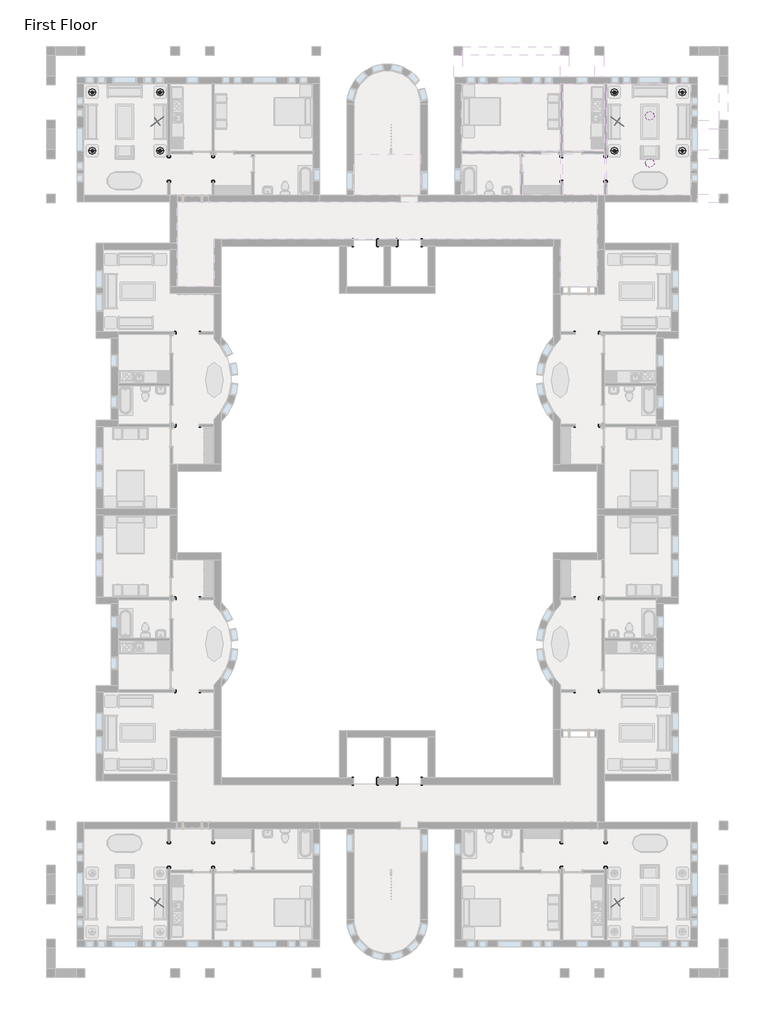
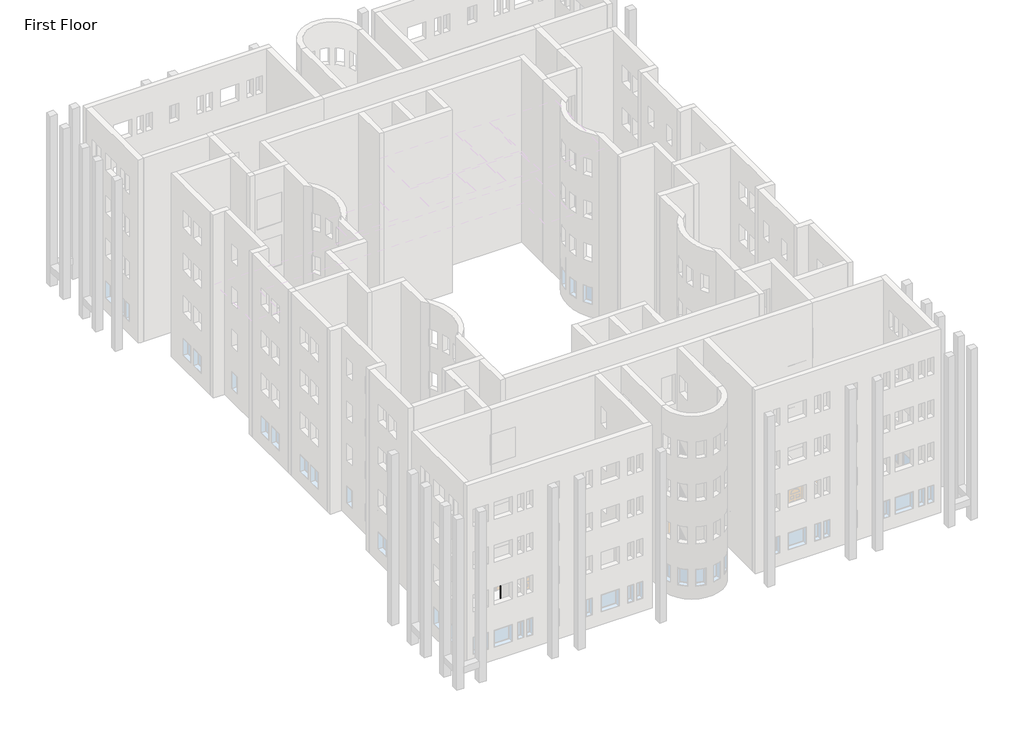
# One storey, part 21 of 21: 24 proxies, 10 light fixtures.
"""IFC4 building model written with IfcOpenShell, lengths in millimetres."""

from ifc_helpers import new_model, si_unit, origin, place, context, project, spatial, transform, mapped, element, save
from components import proxy_f44482cc, proxy_c3589814, proxy_d58c73d0, proxy_1659ed5c, rpc_female_69e001fa, rpc_female_db180e41, pendant_light_disk_100w_120v_c68bffb6, table_lamp_standard_60w_120v_6e8cd8b1, table_lamp_standard_60w_120v_b33ea945

model = new_model("IFC4")

# Units and contexts
model_context = context("Model", 3, world=origin())
ifc_project = project(units=[si_unit("LENGTHUNIT", "METRE", prefix="MILLI")], contexts=[model_context])

# Site, building, storey
site = spatial("IfcSite", under=ifc_project)
building = spatial("IfcBuilding", under=site)
storey = spatial("IfcBuildingStorey", under=building, Name="First Floor", Elevation=0.0)

# Proxies
placement = place(None, origin())
proxy_shape = proxy_f44482cc(model_context)
element("IfcBuildingElementProxy", 1, Name="Opening-Cased : 48\" x 84\"", ObjectType="Opening-Cased : 48\" x 84\"", at=placement, inside=storey, context=model_context, shape_type="MappedRepresentation", body=[
    mapped(proxy_shape, transform((-3773.4589563, 5882.4203434, 0.0), x_axis=(0.0, 1.0, 0.0), y_axis=(-1.0, 0.0, 0.0), z_axis=(0.0, 0.0, 1.0))),
])
element("IfcBuildingElementProxy", 2, Name="Opening-Cased : 48\" x 84\"", ObjectType="Opening-Cased : 48\" x 84\"", at=placement, inside=storey, context=model_context, shape_type="MappedRepresentation", body=[
    mapped(proxy_shape, transform((-6059.4589563, 5866.04303, 0.0), x_axis=(0.0, -1.0, 0.0), y_axis=(1.0, 0.0, 0.0), z_axis=(0.0, 0.0, 1.0))),
])
element("IfcBuildingElementProxy", 3, Name="Opening-Cased : 48\" x 84\"", ObjectType="Opening-Cased : 48\" x 84\"", at=placement, inside=storey, context=model_context, shape_type="MappedRepresentation", body=[
    mapped(proxy_shape, transform((-25377.4952996, -7386.1558133, 0.0), x_axis=(1.0, 0.0, 0.0), y_axis=(0.0, 1.0, 0.0), z_axis=(0.0, 0.0, 1.0))),
])
element("IfcBuildingElementProxy", 4, Name="Opening-Cased : 48\" x 84\"", ObjectType="Opening-Cased : 48\" x 84\"", at=placement, inside=storey, context=model_context, shape_type="MappedRepresentation", body=[
    mapped(proxy_shape, transform((-25393.872613, -2588.7308133, 0.0), x_axis=(-1.0, 0.0, 0.0), y_axis=(0.0, -1.0, 0.0), z_axis=(0.0, 0.0, 1.0))),
])
element("IfcBuildingElementProxy", 5, Name="Opening-Cased : 48\" x 84\"", ObjectType="Opening-Cased : 48\" x 84\"", at=placement, inside=storey, context=model_context, shape_type="MappedRepresentation", body=[
    mapped(proxy_shape, transform((-4746.847613, -16304.7308133, 0.0), x_axis=(-1.0, 0.0, 0.0), y_axis=(0.0, -1.0, 0.0), z_axis=(0.0, 0.0, 1.0))),
])
element("IfcBuildingElementProxy", 6, Name="Opening-Cased : 48\" x 84\"", ObjectType="Opening-Cased : 48\" x 84\"", at=placement, inside=storey, context=model_context, shape_type="MappedRepresentation", body=[
    mapped(proxy_shape, transform((-4730.4702996, -21102.1558133, 0.0), x_axis=(1.0, 0.0, 0.0), y_axis=(0.0, 1.0, 0.0), z_axis=(0.0, 0.0, 1.0))),
])
element("IfcBuildingElementProxy", 7, Name="Opening-Cased : 48\" x 84\"", ObjectType="Opening-Cased : 48\" x 84\"", at=placement, inside=storey, context=model_context, shape_type="MappedRepresentation", body=[
    mapped(proxy_shape, transform((-26350.8839563, -29573.30697, 0.0), x_axis=(0.0, -1.0, 0.0), y_axis=(1.0, 0.0, 0.0), z_axis=(0.0, 0.0, 1.0))),
])
element("IfcBuildingElementProxy", 8, Name="Opening-Cased : 48\" x 84\"", ObjectType="Opening-Cased : 48\" x 84\"", at=placement, inside=storey, context=model_context, shape_type="MappedRepresentation", body=[
    mapped(proxy_shape, transform((-24064.8839563, -29556.9296566, 0.0), x_axis=(0.0, 1.0, 0.0), y_axis=(-1.0, 0.0, 0.0), z_axis=(0.0, 0.0, 1.0))),
])
proxy_2_shape = proxy_c3589814(model_context)
element("IfcBuildingElementProxy", 9, Name="Opening-Cased : 48\" x 84\"", ObjectType="Opening-Cased : 48\" x 84\"", at=placement, inside=storey, context=model_context, shape_type="MappedRepresentation", body=[
    mapped(proxy_2_shape, transform((-16213.360113, 2064.2316867, 0.0), x_axis=(-1.0, 0.0, 0.0), y_axis=(0.0, -1.0, 0.0), z_axis=(0.0, 0.0, 1.0))),
])
element("IfcBuildingElementProxy", 10, Name="Opening-Cased : 48\" x 84\"", ObjectType="Opening-Cased : 48\" x 84\"", at=placement, inside=storey, context=model_context, shape_type="MappedRepresentation", body=[
    mapped(proxy_2_shape, transform((-13927.360113, 2064.2316867, 0.0), x_axis=(-1.0, 0.0, 0.0), y_axis=(0.0, -1.0, 0.0), z_axis=(0.0, 0.0, 1.0))),
])
proxy_3_shape = proxy_d58c73d0(model_context)
element("IfcBuildingElementProxy", 11, Name="Opening-Cased : 48\" x 84\"", ObjectType="Opening-Cased : 48\" x 84\"", at=placement, inside=storey, context=model_context, shape_type="MappedRepresentation", body=[
    mapped(proxy_3_shape, transform((-4746.847613, -7386.1558133, 0.0), x_axis=(-1.0, 0.0, 0.0), y_axis=(0.0, -1.0, 0.0), z_axis=(0.0, 0.0, 1.0))),
])
element("IfcBuildingElementProxy", 12, Name="Opening-Cased : 48\" x 84\"", ObjectType="Opening-Cased : 48\" x 84\"", at=placement, inside=storey, context=model_context, shape_type="MappedRepresentation", body=[
    mapped(proxy_3_shape, transform((-4730.4702996, -2588.7308133, 0.0), x_axis=(1.0, 0.0, 0.0), y_axis=(0.0, 1.0, 0.0), z_axis=(0.0, 0.0, 1.0))),
])
element("IfcBuildingElementProxy", 13, Name="Opening-Cased : 48\" x 84\"", ObjectType="Opening-Cased : 48\" x 84\"", at=placement, inside=storey, context=model_context, shape_type="MappedRepresentation", body=[
    mapped(proxy_3_shape, transform((-26350.8839563, 5882.4203434, 0.0), x_axis=(0.0, 1.0, 0.0), y_axis=(-1.0, 0.0, 0.0), z_axis=(0.0, 0.0, 1.0))),
])
element("IfcBuildingElementProxy", 14, Name="Opening-Cased : 48\" x 84\"", ObjectType="Opening-Cased : 48\" x 84\"", at=placement, inside=storey, context=model_context, shape_type="MappedRepresentation", body=[
    mapped(proxy_3_shape, transform((-24064.8839563, 5866.04303, 0.0), x_axis=(0.0, -1.0, 0.0), y_axis=(1.0, 0.0, 0.0), z_axis=(0.0, 0.0, 1.0))),
])
element("IfcBuildingElementProxy", 15, Name="Opening-Cased : 48\" x 84\"", ObjectType="Opening-Cased : 48\" x 84\"", at=placement, inside=storey, context=model_context, shape_type="MappedRepresentation", body=[
    mapped(proxy_3_shape, transform((-3773.4589563, -29573.30697, 0.0), x_axis=(0.0, -1.0, 0.0), y_axis=(1.0, 0.0, 0.0), z_axis=(0.0, 0.0, 1.0))),
])
element("IfcBuildingElementProxy", 16, Name="Opening-Cased : 48\" x 84\"", ObjectType="Opening-Cased : 48\" x 84\"", at=placement, inside=storey, context=model_context, shape_type="MappedRepresentation", body=[
    mapped(proxy_3_shape, transform((-6059.4589563, -29556.9296566, 0.0), x_axis=(0.0, 1.0, 0.0), y_axis=(-1.0, 0.0, 0.0), z_axis=(0.0, 0.0, 1.0))),
])
element("IfcBuildingElementProxy", 17, Name="Opening-Cased : 48\" x 84\"", ObjectType="Opening-Cased : 48\" x 84\"", at=placement, inside=storey, context=model_context, shape_type="MappedRepresentation", body=[
    mapped(proxy_3_shape, transform((-25377.4952996, -16304.7308133, 0.0), x_axis=(1.0, 0.0, 0.0), y_axis=(0.0, 1.0, 0.0), z_axis=(0.0, 0.0, 1.0))),
])
element("IfcBuildingElementProxy", 18, Name="Opening-Cased : 48\" x 84\"", ObjectType="Opening-Cased : 48\" x 84\"", at=placement, inside=storey, context=model_context, shape_type="MappedRepresentation", body=[
    mapped(proxy_3_shape, transform((-25393.872613, -21102.1558133, 0.0), x_axis=(-1.0, 0.0, 0.0), y_axis=(0.0, -1.0, 0.0), z_axis=(0.0, 0.0, 1.0))),
])
proxy_4_shape = proxy_1659ed5c(model_context)
element("IfcBuildingElementProxy", 19, Name="Opening-Cased : 48\" x 84\"", ObjectType="Opening-Cased : 48\" x 84\"", at=placement, inside=storey, context=model_context, shape_type="MappedRepresentation", body=[
    mapped(proxy_4_shape, transform((-16213.360113, -25755.1183133, 0.0), x_axis=(-1.0, 0.0, 0.0), y_axis=(0.0, -1.0, 0.0), z_axis=(0.0, 0.0, 1.0))),
])
element("IfcBuildingElementProxy", 20, Name="Opening-Cased : 48\" x 84\"", ObjectType="Opening-Cased : 48\" x 84\"", at=placement, inside=storey, context=model_context, shape_type="MappedRepresentation", body=[
    mapped(proxy_4_shape, transform((-13927.360113, -25755.1183133, 0.0), x_axis=(-1.0, 0.0, 0.0), y_axis=(0.0, -1.0, 0.0), z_axis=(0.0, 0.0, 1.0))),
])
rpc_female_shape = rpc_female_69e001fa(model_context)
element("IfcBuildingElementProxy", 21, Name="RPC Female : Cynthia", ObjectType="RPC Female : Cynthia", at=placement, inside=storey, context=model_context, shape_type="MappedRepresentation", body=[
    mapped(rpc_female_shape, transform((-3048.0, 8229.6, 0.0), x_axis=(0.5877852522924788, 0.8090169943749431, 0.0), y_axis=(-0.8090169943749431, 0.5877852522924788, 0.0), z_axis=(0.0, 0.0, 1.0))),
])
element("IfcBuildingElementProxy", 22, Name="RPC Female : Cynthia", ObjectType="RPC Female : Cynthia", at=placement, inside=storey, context=model_context, shape_type="MappedRepresentation", body=[
    mapped(rpc_female_shape, transform((-27076.3429126, -31920.4866266, 0.0), x_axis=(-0.5877852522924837, -0.8090169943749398, 0.0), y_axis=(0.8090169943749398, -0.5877852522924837, 0.0), z_axis=(0.0, 0.0, 1.0))),
])
rpc_female_2_shape = rpc_female_db180e41(model_context)
element("IfcBuildingElementProxy", 23, Name="RPC Female : Cynthia", ObjectType="RPC Female : Cynthia", at=placement, inside=storey, context=model_context, shape_type="MappedRepresentation", body=[
    mapped(rpc_female_2_shape, transform((-27076.3429126, 8229.6, 0.0), x_axis=(-0.5877852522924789, 0.8090169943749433, 0.0), y_axis=(-0.8090169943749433, -0.5877852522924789, 0.0), z_axis=(0.0, 0.0, 1.0))),
])
element("IfcBuildingElementProxy", 24, Name="RPC Female : Cynthia", ObjectType="RPC Female : Cynthia", at=placement, inside=storey, context=model_context, shape_type="MappedRepresentation", body=[
    mapped(rpc_female_2_shape, transform((-3048.0, -31920.4866266, 0.0), x_axis=(0.5877852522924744, -0.8090169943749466, 0.0), y_axis=(0.8090169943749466, 0.5877852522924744, 0.0), z_axis=(0.0, 0.0, 1.0))),
])

# Light fixtures
pendant_light_disk_100w_120v_shape = pendant_light_disk_100w_120v_c68bffb6(model_context)
element("IfcLightFixture", 25, ObjectType="Pendant Light - Disk : 100W - 120V", at=placement, inside=storey, context=model_context, shape_type="MappedRepresentation", body=[
    mapped(pendant_light_disk_100w_120v_shape, transform((-1487.4589563, 8617.4316867, 152.3999938), x_axis=(1.0, 0.0, 0.0), y_axis=(0.0, 1.0, 0.0), z_axis=(0.0, 0.0, 1.0))),
])
element("IfcLightFixture", 26, ObjectType="Pendant Light - Disk : 100W - 120V", at=placement, inside=storey, context=model_context, shape_type="MappedRepresentation", body=[
    mapped(pendant_light_disk_100w_120v_shape, transform((-1487.4589563, 6179.0316867, 152.3999938), x_axis=(1.0, 0.0, 0.0), y_axis=(0.0, 1.0, 0.0), z_axis=(0.0, 0.0, 1.0))),
])
table_lamp_standard_60w_120v_shape = table_lamp_standard_60w_120v_6e8cd8b1(model_context)
element("IfcLightFixture", 27, ObjectType="Table Lamp - Standard : 60W - 120V", at=placement, inside=storey, context=model_context, shape_type="MappedRepresentation", body=[
    mapped(table_lamp_standard_60w_120v_shape, transform((188.9410437, 6812.4441867, 381.0), x_axis=(1.0, 0.0, 0.0), y_axis=(0.0, 1.0, 0.0), z_axis=(0.0, 0.0, 1.0))),
])
element("IfcLightFixture", 28, ObjectType="Table Lamp - Standard : 60W - 120V", at=placement, inside=storey, context=model_context, shape_type="MappedRepresentation", body=[
    mapped(table_lamp_standard_60w_120v_shape, transform((188.9410437, 9836.6316867, 381.0), x_axis=(1.0, 0.0, 0.0), y_axis=(0.0, 1.0, 0.0), z_axis=(0.0, 0.0, 1.0))),
])
element("IfcLightFixture", 29, ObjectType="Table Lamp - Standard : 60W - 120V", at=placement, inside=storey, context=model_context, shape_type="MappedRepresentation", body=[
    mapped(table_lamp_standard_60w_120v_shape, transform((-3316.2589563, 9836.6316867, 381.0), x_axis=(1.0, 0.0, 0.0), y_axis=(0.0, 1.0, 0.0), z_axis=(0.0, 0.0, 1.0))),
])
element("IfcLightFixture", 30, ObjectType="Table Lamp - Standard : 60W - 120V", at=placement, inside=storey, context=model_context, shape_type="MappedRepresentation", body=[
    mapped(table_lamp_standard_60w_120v_shape, transform((-3316.2589563, 6812.4441867, 381.0), x_axis=(1.0, 0.0, 0.0), y_axis=(0.0, 1.0, 0.0), z_axis=(0.0, 0.0, 1.0))),
])
table_lamp_standard_60w_120v_2_shape = table_lamp_standard_60w_120v_b33ea945(model_context)
element("IfcLightFixture", 31, ObjectType="Table Lamp - Standard : 60W - 120V", at=placement, inside=storey, context=model_context, shape_type="MappedRepresentation", body=[
    mapped(table_lamp_standard_60w_120v_2_shape, transform((-30313.2839563, 6812.4441867, 381.0), x_axis=(-1.0, 0.0, 0.0), y_axis=(0.0, -1.0, 0.0), z_axis=(0.0, 0.0, 1.0))),
])
element("IfcLightFixture", 32, ObjectType="Table Lamp - Standard : 60W - 120V", at=placement, inside=storey, context=model_context, shape_type="MappedRepresentation", body=[
    mapped(table_lamp_standard_60w_120v_2_shape, transform((-30313.2839563, 9836.6316867, 381.0), x_axis=(-1.0, 0.0, 0.0), y_axis=(0.0, -1.0, 0.0), z_axis=(0.0, 0.0, 1.0))),
])
element("IfcLightFixture", 33, ObjectType="Table Lamp - Standard : 60W - 120V", at=placement, inside=storey, context=model_context, shape_type="MappedRepresentation", body=[
    mapped(table_lamp_standard_60w_120v_2_shape, transform((-26808.0839563, 9836.6316867, 381.0), x_axis=(-1.0, 0.0, 0.0), y_axis=(0.0, -1.0, 0.0), z_axis=(0.0, 0.0, 1.0))),
])
element("IfcLightFixture", 34, ObjectType="Table Lamp - Standard : 60W - 120V", at=placement, inside=storey, context=model_context, shape_type="MappedRepresentation", body=[
    mapped(table_lamp_standard_60w_120v_2_shape, transform((-26808.0839563, 6812.4441867, 381.0), x_axis=(-1.0, 0.0, 0.0), y_axis=(0.0, -1.0, 0.0), z_axis=(0.0, 0.0, 1.0))),
])

save(model, "model.ifc")
